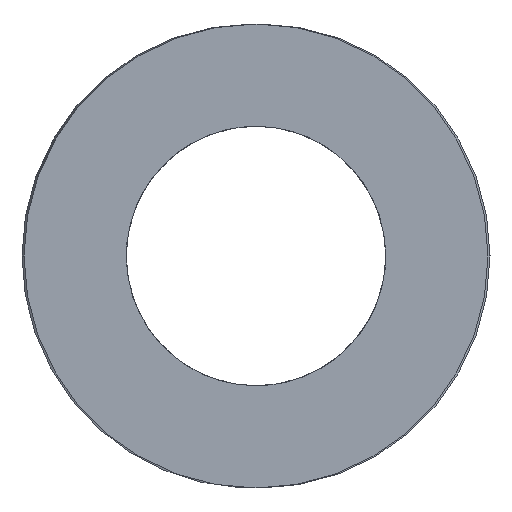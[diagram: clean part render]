
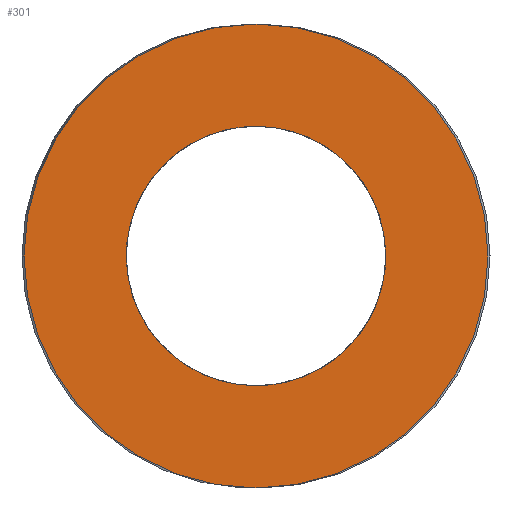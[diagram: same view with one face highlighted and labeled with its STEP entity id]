
A CAD part, left-side view. The second image highlights one B-rep face of the part: STEP entity #301.
In plain terms, the highlighted planar face has unit normal (-1, 0, 0).
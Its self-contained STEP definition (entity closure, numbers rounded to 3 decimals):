
#63=CARTESIAN_POINT('Vertex',(0.,12.25,0.)) ;
#77=CARTESIAN_POINT('Vertex',(0.,-12.25,0.)) ;
#80=CARTESIAN_POINT('Axis2P3D Location',(0.,0.,0.)) ;
#97=CARTESIAN_POINT('Axis2P3D Location',(0.,0.,0.)) ;
#232=CARTESIAN_POINT('Axis2P3D Location',(0.,6.125,0.)) ;
#242=CARTESIAN_POINT('Control Point',(0.,0.,-6.85)) ;
#243=CARTESIAN_POINT('Control Point',(0.,0.641,-6.85)) ;
#244=CARTESIAN_POINT('Control Point',(0.,1.282,-6.775)) ;
#245=CARTESIAN_POINT('Control Point',(0.,1.912,-6.625)) ;
#246=CARTESIAN_POINT('Control Point',(0.,3.124,-6.181)) ;
#247=CARTESIAN_POINT('Control Point',(0.,4.2,-5.468)) ;
#248=CARTESIAN_POINT('Control Point',(0.,4.694,-5.051)) ;
#249=CARTESIAN_POINT('Control Point',(0.,5.576,-4.107)) ;
#250=CARTESIAN_POINT('Control Point',(0.,6.215,-2.986)) ;
#251=CARTESIAN_POINT('Control Point',(0.,6.468,-2.39)) ;
#252=CARTESIAN_POINT('Control Point',(0.,6.829,-1.151)) ;
#253=CARTESIAN_POINT('Control Point',(0.,6.894,0.139)) ;
#254=CARTESIAN_POINT('Control Point',(0.,6.851,0.784)) ;
#255=CARTESIAN_POINT('Control Point',(0.,6.614,2.053)) ;
#256=CARTESIAN_POINT('Control Point',(0.,6.09,3.233)) ;
#257=CARTESIAN_POINT('Control Point',(0.,5.76,3.79)) ;
#258=CARTESIAN_POINT('Control Point',(0.,4.977,4.816)) ;
#259=CARTESIAN_POINT('Control Point',(0.,3.977,5.633)) ;
#260=CARTESIAN_POINT('Control Point',(0.,3.432,5.981)) ;
#261=CARTESIAN_POINT('Control Point',(0.,2.436,6.462)) ;
#262=CARTESIAN_POINT('Control Point',(0.,1.368,6.735)) ;
#263=CARTESIAN_POINT('Control Point',(0.,0.915,6.812)) ;
#264=CARTESIAN_POINT('Control Point',(0.,0.457,6.85)) ;
#265=CARTESIAN_POINT('Control Point',(0.,0.,6.85)) ;
#266=CARTESIAN_POINT('Vertex',(0.,0.,-6.85)) ;
#268=CARTESIAN_POINT('Vertex',(0.,0.,6.85)) ;
#272=CARTESIAN_POINT('Control Point',(0.,0.,6.85)) ;
#273=CARTESIAN_POINT('Control Point',(0.,-0.641,6.85)) ;
#274=CARTESIAN_POINT('Control Point',(0.,-1.282,6.775)) ;
#275=CARTESIAN_POINT('Control Point',(0.,-1.912,6.625)) ;
#276=CARTESIAN_POINT('Control Point',(0.,-3.124,6.181)) ;
#277=CARTESIAN_POINT('Control Point',(0.,-4.2,5.468)) ;
#278=CARTESIAN_POINT('Control Point',(0.,-4.694,5.051)) ;
#279=CARTESIAN_POINT('Control Point',(0.,-5.576,4.107)) ;
#280=CARTESIAN_POINT('Control Point',(0.,-6.215,2.986)) ;
#281=CARTESIAN_POINT('Control Point',(0.,-6.468,2.39)) ;
#282=CARTESIAN_POINT('Control Point',(0.,-6.829,1.151)) ;
#283=CARTESIAN_POINT('Control Point',(0.,-6.894,-0.139)) ;
#284=CARTESIAN_POINT('Control Point',(0.,-6.851,-0.784)) ;
#285=CARTESIAN_POINT('Control Point',(0.,-6.614,-2.053)) ;
#286=CARTESIAN_POINT('Control Point',(0.,-6.09,-3.233)) ;
#287=CARTESIAN_POINT('Control Point',(0.,-5.76,-3.79)) ;
#288=CARTESIAN_POINT('Control Point',(0.,-4.977,-4.816)) ;
#289=CARTESIAN_POINT('Control Point',(0.,-3.977,-5.633)) ;
#290=CARTESIAN_POINT('Control Point',(0.,-3.432,-5.981)) ;
#291=CARTESIAN_POINT('Control Point',(0.,-2.436,-6.462)) ;
#292=CARTESIAN_POINT('Control Point',(0.,-1.368,-6.735)) ;
#293=CARTESIAN_POINT('Control Point',(0.,-0.915,-6.812)) ;
#294=CARTESIAN_POINT('Control Point',(0.,-0.457,-6.85)) ;
#295=CARTESIAN_POINT('Control Point',(0.,0.,-6.85)) ;
#81=DIRECTION('Axis2P3D Direction',(1.,-0.,0.)) ;
#98=DIRECTION('Axis2P3D Direction',(1.,-0.,0.)) ;
#233=DIRECTION('Axis2P3D Direction',(-1.,0.,0.)) ;
#234=DIRECTION('Axis2P3D XDirection',(0.,1.,0.)) ;
#82=AXIS2_PLACEMENT_3D('Circle Axis2P3D',#80,#81,$) ;
#99=AXIS2_PLACEMENT_3D('Circle Axis2P3D',#97,#98,$) ;
#235=AXIS2_PLACEMENT_3D('Plane Axis2P3D',#232,#233,#234) ;
#238=ORIENTED_EDGE('',*,*,#84,.T.) ;
#239=ORIENTED_EDGE('',*,*,#101,.T.) ;
#298=ORIENTED_EDGE('',*,*,#270,.T.) ;
#299=ORIENTED_EDGE('',*,*,#296,.T.) ;
#300=FACE_BOUND('',#297,.T.) ;
#301=ADVANCED_FACE('392-B25-127',(#240,#300),#236,.T.) ;
#241=B_SPLINE_CURVE_WITH_KNOTS('',5,(#242,#243,#244,#245,#246,#247,#248,#249,#250,#251,#252,#253,#254,#255,#256,#257,#258,#259,#260,#261,#262,#263,#264,#265),.UNSPECIFIED.,.F.,.U.,(6,3,3,3,3,3,3,6),(0.,4.533,9.066,13.6,18.133,22.666,27.199,30.433),.UNSPECIFIED.) ;
#271=B_SPLINE_CURVE_WITH_KNOTS('',5,(#272,#273,#274,#275,#276,#277,#278,#279,#280,#281,#282,#283,#284,#285,#286,#287,#288,#289,#290,#291,#292,#293,#294,#295),.UNSPECIFIED.,.F.,.U.,(6,3,3,3,3,3,3,6),(0.,4.533,9.066,13.6,18.133,22.666,27.199,30.433),.UNSPECIFIED.) ;
#83=CIRCLE('generated circle',#82,12.25) ;
#100=CIRCLE('generated circle',#99,12.25) ;
#84=EDGE_CURVE('',#64,#78,#83,.F.) ;
#101=EDGE_CURVE('',#78,#64,#100,.F.) ;
#270=EDGE_CURVE('',#267,#269,#241,.T.) ;
#296=EDGE_CURVE('',#269,#267,#271,.T.) ;
#237=EDGE_LOOP('',(#238,#239)) ;
#297=EDGE_LOOP('',(#298,#299)) ;
#240=FACE_OUTER_BOUND('',#237,.T.) ;
#236=PLANE('Plane',#235) ;
#64=VERTEX_POINT('',#63) ;
#78=VERTEX_POINT('',#77) ;
#267=VERTEX_POINT('',#266) ;
#269=VERTEX_POINT('',#268) ;
